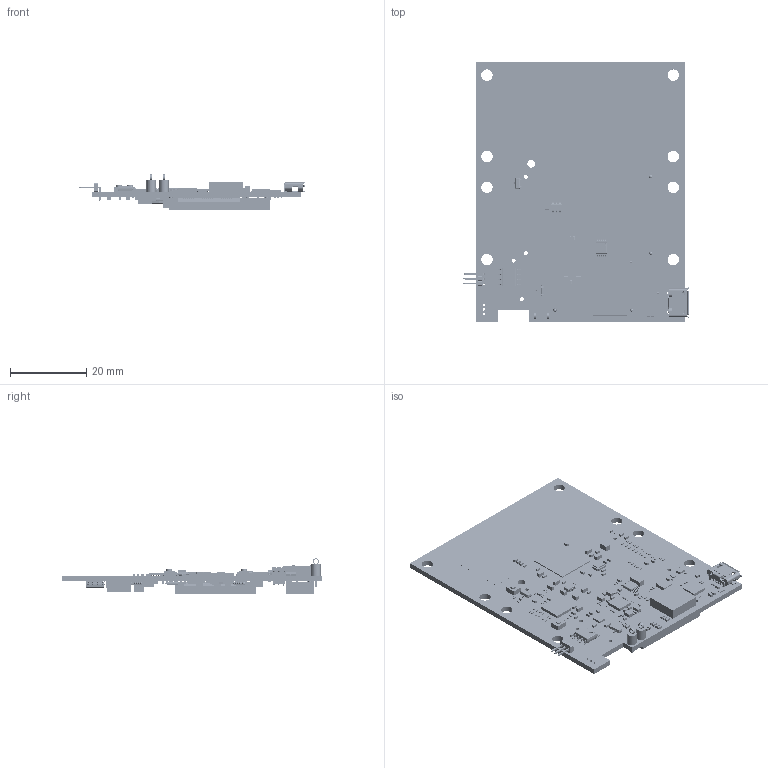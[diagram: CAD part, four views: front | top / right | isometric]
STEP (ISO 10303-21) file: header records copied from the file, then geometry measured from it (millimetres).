
FILE_DESCRIPTION(('Open CASCADE Model'),'2;1');
FILE_NAME('Open CASCADE Shape Model','2020-05-28T12:54:41',('Author'),( 'Open CASCADE'),'Open CASCADE STEP processor 6.8','Open CASCADE 6.8' ,'Unknown');
FILE_SCHEMA(('AUTOMOTIVE_DESIGN { 1 0 10303 214 1 1 1 1 }'));
Length unit declared in the file: millimetre
Products named in the file (618): PCB; Board; LBL1; 6236806912; Extruded; R69; 6236803456; 6236803264; R230; 6236802304; 6236802112; R229; R228; R227; R226; R225; R224; R223; R222; R221; R220; R219; R218; R217; S1; 6278673408; R192; 6236804992; 6236804800; TP13; Keystone_5001; Keystone5001_black; Keystone500x_wire; TP12; R122; 6236802688; 6236802496; L1; 6236799616; 6236799424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
Assembly tree (1598 placements, depth 6):
  PCB
    Board
    LBL1
      6236806912
        Extruded
    R69
      6236803456  x2
        Extruded
      6236803264
        Extruded
    R230
      6236802304  x2
        Extruded
      6236802112
        Extruded
    R229
      6236802304  x2
        Extruded
      6236802112
        Extruded
    R228
      6236802304  x2
        Extruded
      6236802112
        Extruded
    R227
      6236802304  x2
        Extruded
      6236802112
        Extruded
    R226
      6236802304  x2
        Extruded
      6236802112
        Extruded
    R225
      6236802304  x2
        Extruded
      6236802112
        Extruded
    R224
      6236802304  x2
        Extruded
      6236802112
        Extruded
    R223
      6236802304  x2
        Extruded
      6236802112
        Extruded
    R222
      6236802304  x2
        Extruded
      6236802112
        Extruded
    R221
      6236802304  x2
        Extruded
      6236802112
        Extruded
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Bounding box: 59.42 x 68.46 x 9.33 mm (x, y, z)
Volume: 6750.1 mm3; surface area: 14895.5 mm2
Topology: 1363 solids, 1363 shells, 17947 faces, 45608 edges, 29951 vertices
Faces by surface type: plane 13423, cylinder 2136, bspline 1834, sphere 534, torus 12, revolution 8
Full cylindrical faces by diameter (mm): 0.25 x1, 0.4 x1, 0.6 x6, 0.85 x2, 1.016 x4, 1.02 x6, 2.032 x1, 2.5 x2, 3 x8
Entity records: 243832 total; most frequent: CARTESIAN_POINT 48296, ORIENTED_EDGE 36130, DIRECTION 33725, EDGE_CURVE 18065, LINE 14369, VECTOR 14369, VERTEX_POINT 11876, AXIS2_PLACEMENT_3D 9676
